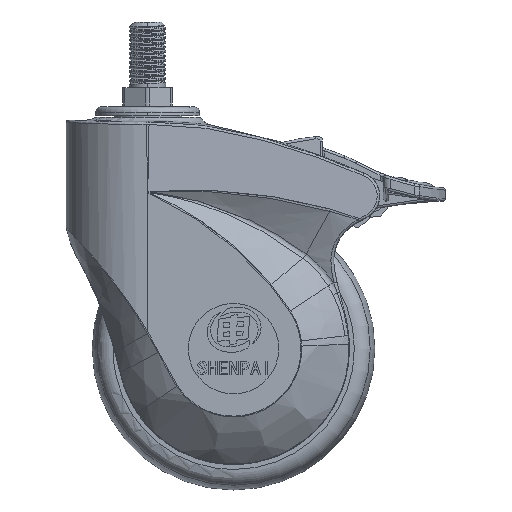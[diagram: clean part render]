
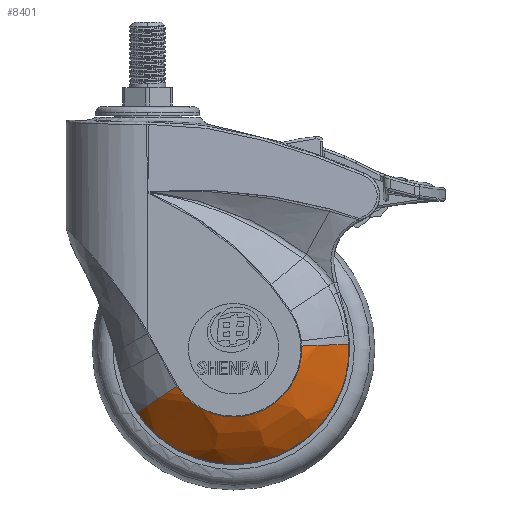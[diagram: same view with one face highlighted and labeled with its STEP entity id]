
A CAD part, front view. The second image highlights one B-rep face of the part: STEP entity #8401.
In plain terms, the highlighted free-form (B-spline) face has degree [3, 3] with [4, 4] control points.
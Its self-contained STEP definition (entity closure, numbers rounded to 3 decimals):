
#1902=(
BOUNDED_SURFACE()
B_SPLINE_SURFACE(3,3,((#102352,#102353,#102354,#102355),(#102356,#102357,
#102358,#102359),(#102360,#102361,#102362,#102363),(#102364,#102365,#102366,
#102367)),.UNSPECIFIED.,.F.,.F.,.F.)
B_SPLINE_SURFACE_WITH_KNOTS((4,4),(4,4),(0.,1.),(0.,1.),.UNSPECIFIED.)
GEOMETRIC_REPRESENTATION_ITEM()
RATIONAL_B_SPLINE_SURFACE(((1.,0.504,0.504,1.),(0.975,
0.491,0.491,0.975),(0.975,
0.491,0.491,0.975),(1.,0.504,
0.504,1.)))
REPRESENTATION_ITEM('')
SURFACE()
);
#5577=B_SPLINE_CURVE_WITH_KNOTS('',3,(#100235,#100236,#100237,#100238,#100239,
#100240,#100241,#100242,#100243,#100244),.UNSPECIFIED.,.F.,.F.,(4,2,2,2,
4),(0.,0.25,0.5,0.75,1.),.UNSPECIFIED.);
#5605=B_SPLINE_CURVE_WITH_KNOTS('',3,(#101259,#101260,#101261,#101262,#101263,
#101264,#101265,#101266,#101267,#101268),.UNSPECIFIED.,.F.,.F.,(4,2,2,2,
4),(0.,0.25,0.5,0.75,1.),.UNSPECIFIED.);
#5647=B_SPLINE_CURVE_WITH_KNOTS('',3,(#102210,#102211,#102212,#102213),
 .UNSPECIFIED.,.F.,.F.,(4,4),(0.,1.),.UNSPECIFIED.);
#5652=B_SPLINE_CURVE_WITH_KNOTS('',3,(#102322,#102323,#102324,#102325,#102326),
 .UNSPECIFIED.,.F.,.F.,(4,1,4),(0.,0.498,1.),.UNSPECIFIED.);
#8401=ADVANCED_FACE('',(#12602),#1902,.T.);
#12602=FACE_OUTER_BOUND('',#15513,.T.);
#15513=EDGE_LOOP('',(#25139,#25140,#25141,#25142));
#25139=ORIENTED_EDGE('',*,*,#42814,.F.);
#25140=ORIENTED_EDGE('',*,*,#42943,.F.);
#25141=ORIENTED_EDGE('',*,*,#42843,.F.);
#25142=ORIENTED_EDGE('',*,*,#42948,.F.);
#36236=VERTEX_POINT('',#99876);
#36238=VERTEX_POINT('',#100155);
#36252=VERTEX_POINT('',#101248);
#36253=VERTEX_POINT('',#101258);
#42814=EDGE_CURVE('',#36236,#36238,#5577,.T.);
#42843=EDGE_CURVE('',#36253,#36252,#5605,.T.);
#42943=EDGE_CURVE('',#36252,#36236,#5647,.T.);
#42948=EDGE_CURVE('',#36238,#36253,#5652,.T.);
#99876=CARTESIAN_POINT('',(89.02,-19.252,-142.437));
#100155=CARTESIAN_POINT('',(-4.538,-19.252,-172.631));
#100235=CARTESIAN_POINT('',(89.02,-19.252,-142.437));
#100236=CARTESIAN_POINT('',(89.444,-19.252,-153.466));
#100237=CARTESIAN_POINT('',(86.171,-19.252,-164.605));
#100238=CARTESIAN_POINT('',(73.523,-19.252,-182.697));
#100239=CARTESIAN_POINT('',(64.186,-19.252,-189.598));
#100240=CARTESIAN_POINT('',(43.179,-19.252,-196.378));
#100241=CARTESIAN_POINT('',(31.569,-19.252,-196.237));
#100242=CARTESIAN_POINT('',(10.732,-19.252,-188.951));
#100243=CARTESIAN_POINT('',(1.565,-19.252,-181.827));
#100244=CARTESIAN_POINT('',(-4.538,-19.252,-172.631));
#101248=CARTESIAN_POINT('',(68.169,-35.92,-143.239));
#101258=CARTESIAN_POINT('',(12.848,-35.92,-161.093));
#101259=CARTESIAN_POINT('',(12.848,-35.92,-161.093));
#101260=CARTESIAN_POINT('',(16.456,-35.92,-166.531));
#101261=CARTESIAN_POINT('',(21.877,-35.92,-170.743));
#101262=CARTESIAN_POINT('',(34.198,-35.92,-175.052));
#101263=CARTESIAN_POINT('',(41.063,-35.92,-175.135));
#101264=CARTESIAN_POINT('',(53.485,-35.92,-171.126));
#101265=CARTESIAN_POINT('',(59.006,-35.92,-167.045));
#101266=CARTESIAN_POINT('',(66.484,-35.92,-156.348));
#101267=CARTESIAN_POINT('',(68.42,-35.92,-149.761));
#101268=CARTESIAN_POINT('',(68.169,-35.92,-143.239));
#102210=CARTESIAN_POINT('',(68.169,-35.92,-143.239));
#102211=CARTESIAN_POINT('',(76.45,-32.38,-142.921));
#102212=CARTESIAN_POINT('',(83.74,-26.552,-142.64));
#102213=CARTESIAN_POINT('',(89.02,-19.252,-142.437));
#102322=CARTESIAN_POINT('',(-4.538,-19.252,-172.631));
#102323=CARTESIAN_POINT('',(-2.346,-22.888,-171.176));
#102324=CARTESIAN_POINT('',(2.88,-29.472,-167.708));
#102325=CARTESIAN_POINT('',(9.382,-34.143,-163.393));
#102326=CARTESIAN_POINT('',(12.848,-35.92,-161.093));
#102352=CARTESIAN_POINT('',(12.717,-35.983,-160.619));
#102353=CARTESIAN_POINT('',(33.479,-35.983,-192.987));
#102354=CARTESIAN_POINT('',(70.075,-35.983,-181.177));
#102355=CARTESIAN_POINT('',(67.998,-35.983,-142.778));
#102356=CARTESIAN_POINT('',(5.558,-32.383,-165.21));
#102357=CARTESIAN_POINT('',(32.198,-32.383,-206.743));
#102358=CARTESIAN_POINT('',(79.155,-32.383,-191.588));
#102359=CARTESIAN_POINT('',(76.49,-32.383,-142.319));
#102360=CARTESIAN_POINT('',(-0.515,-26.619,-169.106));
#102361=CARTESIAN_POINT('',(31.111,-26.62,-218.413));
#102362=CARTESIAN_POINT('',(86.859,-26.62,-200.422));
#102363=CARTESIAN_POINT('',(83.695,-26.619,-141.929));
#102364=CARTESIAN_POINT('',(-5.052,-19.12,-172.016));
#102365=CARTESIAN_POINT('',(30.3,-19.12,-227.131));
#102366=CARTESIAN_POINT('',(92.613,-19.12,-207.021));
#102367=CARTESIAN_POINT('',(89.078,-19.12,-141.638));
